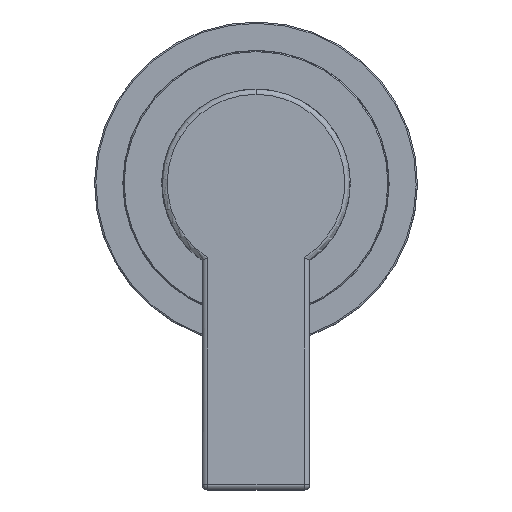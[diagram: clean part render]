
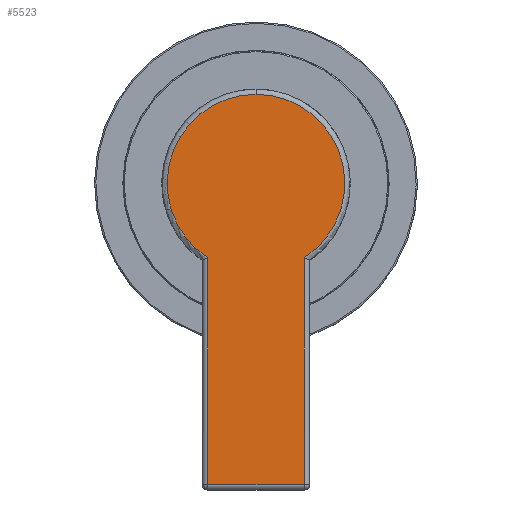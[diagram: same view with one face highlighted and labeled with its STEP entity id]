
A CAD part, top view. The second image highlights one B-rep face of the part: STEP entity #5523.
In plain terms, the highlighted planar face has unit normal (0, 0, 1) as drawn and (0, 0, -1) by its records, which use the part's own axes.
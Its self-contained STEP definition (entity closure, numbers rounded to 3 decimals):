
#210 = CARTESIAN_POINT ( 'NONE',  ( 0., 9., -17.7 ) ) ;
#314 = ORIENTED_EDGE ( 'NONE', *, *, #12501, .T. ) ;
#357 = CARTESIAN_POINT ( 'NONE',  ( 56., -9., -17.7 ) ) ;
#468 = AXIS2_PLACEMENT_3D ( 'NONE', #16506, #12170, #9076 ) ;
#783 = VERTEX_POINT ( 'NONE', #357 ) ;
#1454 = VERTEX_POINT ( 'NONE', #5628 ) ;
#1875 = VECTOR ( 'NONE', #4201, 1000. ) ;
#2986 = DIRECTION ( 'NONE',  ( 0., 0., -1. ) ) ;
#4201 = DIRECTION ( 'NONE',  ( -1., 0., 0. ) ) ;
#4446 = EDGE_CURVE ( 'NONE', #9575, #5339, #10078, .T. ) ;
#4543 = PLANE ( 'NONE',  #468 ) ;
#5339 = VERTEX_POINT ( 'NONE', #14269 ) ;
#5455 = AXIS2_PLACEMENT_3D ( 'NONE', #11789, #2986, #11720 ) ;
#5523 = ADVANCED_FACE ( 'NONE', ( #17142 ), #4543, .T. ) ;
#5628 = CARTESIAN_POINT ( 'NONE',  ( 56., 9., -17.7 ) ) ;
#5818 = CARTESIAN_POINT ( 'NONE',  ( 13.829, 9., -17.7 ) ) ;
#7007 = CARTESIAN_POINT ( 'NONE',  ( 0., -9., -17.7 ) ) ;
#7461 = CIRCLE ( 'NONE', #5455, 16.5 ) ;
#7490 = EDGE_LOOP ( 'NONE', ( #314, #15318, #13477, #12076, #15347 ) ) ;
#7637 = VECTOR ( 'NONE', #9107, 1000. ) ;
#7760 = CARTESIAN_POINT ( 'NONE',  ( 56., -9., -17.7 ) ) ;
#8219 = AXIS2_PLACEMENT_3D ( 'NONE', #13657, #10749, #15057 ) ;
#9076 = DIRECTION ( 'NONE',  ( -1., 0., 0. ) ) ;
#9107 = DIRECTION ( 'NONE',  ( 1., 0., 0. ) ) ;
#9575 = VERTEX_POINT ( 'NONE', #15392 ) ;
#10078 = CIRCLE ( 'NONE', #8219, 16.5 ) ;
#10252 = LINE ( 'NONE', #7760, #13045 ) ;
#10749 = DIRECTION ( 'NONE',  ( 0., 0., -1. ) ) ;
#11602 = LINE ( 'NONE', #7007, #1875 ) ;
#11720 = DIRECTION ( 'NONE',  ( -1., 0., 0. ) ) ;
#11789 = CARTESIAN_POINT ( 'NONE',  ( 0., 0., -17.7 ) ) ;
#11810 = EDGE_CURVE ( 'NONE', #5339, #14937, #7461, .T. ) ;
#12076 = ORIENTED_EDGE ( 'NONE', *, *, #4446, .T. ) ;
#12170 = DIRECTION ( 'NONE',  ( 0., 0., -1. ) ) ;
#12501 = EDGE_CURVE ( 'NONE', #14937, #1454, #15090, .T. ) ;
#13045 = VECTOR ( 'NONE', #13776, 1000. ) ;
#13477 = ORIENTED_EDGE ( 'NONE', *, *, #19098, .T. ) ;
#13657 = CARTESIAN_POINT ( 'NONE',  ( 0., 0., -17.7 ) ) ;
#13776 = DIRECTION ( 'NONE',  ( 0., -1., 0. ) ) ;
#14269 = CARTESIAN_POINT ( 'NONE',  ( -16.5, 0., -17.7 ) ) ;
#14937 = VERTEX_POINT ( 'NONE', #5818 ) ;
#15057 = DIRECTION ( 'NONE',  ( -1., 0., 0. ) ) ;
#15090 = LINE ( 'NONE', #210, #7637 ) ;
#15318 = ORIENTED_EDGE ( 'NONE', *, *, #17755, .T. ) ;
#15347 = ORIENTED_EDGE ( 'NONE', *, *, #11810, .T. ) ;
#15392 = CARTESIAN_POINT ( 'NONE',  ( 13.829, -9., -17.7 ) ) ;
#16506 = CARTESIAN_POINT ( 'NONE',  ( 0., 0., -17.7 ) ) ;
#17142 = FACE_OUTER_BOUND ( 'NONE', #7490, .T. ) ;
#17755 = EDGE_CURVE ( 'NONE', #1454, #783, #10252, .T. ) ;
#19098 = EDGE_CURVE ( 'NONE', #783, #9575, #11602, .T. ) ;
